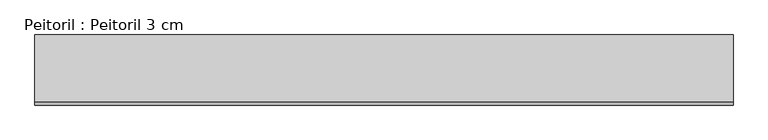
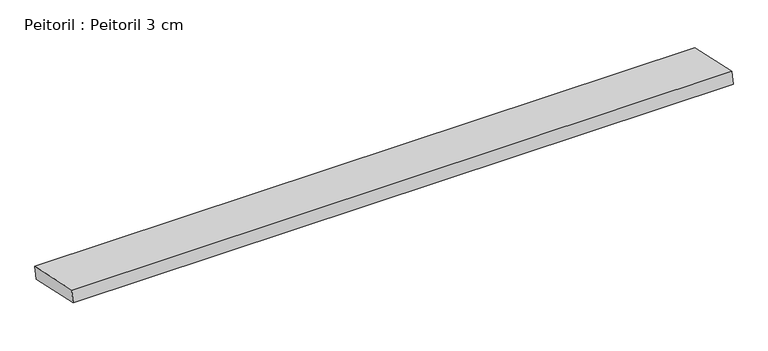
"""IFC4 building model written with IfcOpenShell, lengths in millimetres: proxy geometry, Peitoril : Peitoril 3 cm."""

from ifc_helpers import new_model, si_unit, frame, origin, place, context, project, spatial, polyline, outline, extrude, source, transform, mapped, element, save


def peitoril_peitoril_3_cm_d5d00cd0(model_context):
    return source(origin(), model_context, "Body", "SweptSolid", [
        extrude(outline(polyline([(0.0, -158.0245115), (0.0, 0.0), (1600.0, 0.0), (1600.0, -158.0245115), (0.0, -158.0245115)])), frame((961.81445, -32.3195188, 880.655572), z_axis=(0.0, 0.20791169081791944, 0.9781476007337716), x_axis=(-1.0, 0.0, 0.0)), (0.0, 0.0, 1.0), 30.0),
    ])


if __name__ == "__main__":
    model = new_model("IFC4")
    model_context = context("Model", 3, world=origin())
    ifc_project = project(units=[si_unit("LENGTHUNIT", "METRE", prefix="MILLI")], contexts=[model_context])
    site = spatial("IfcSite", under=ifc_project)
    building = spatial("IfcBuilding", under=site)
    placement = place(None, origin())
    peitoril_peitoril_3_cm_shape = peitoril_peitoril_3_cm_d5d00cd0(model_context)
    element("IfcBuildingElementProxy", 1, Name="Peitoril : Peitoril 3 cm", ObjectType="Peitoril : Peitoril 3 cm", at=placement, inside=building, context=model_context, shape_type="MappedRepresentation", body=[
        mapped(peitoril_peitoril_3_cm_shape, transform((0.0, 0.0, 0.0), x_axis=(1.0, 0.0, 0.0), y_axis=(0.0, 1.0, 0.0), z_axis=(0.0, 0.0, 1.0))),
    ])
    save(model, "model.ifc")
